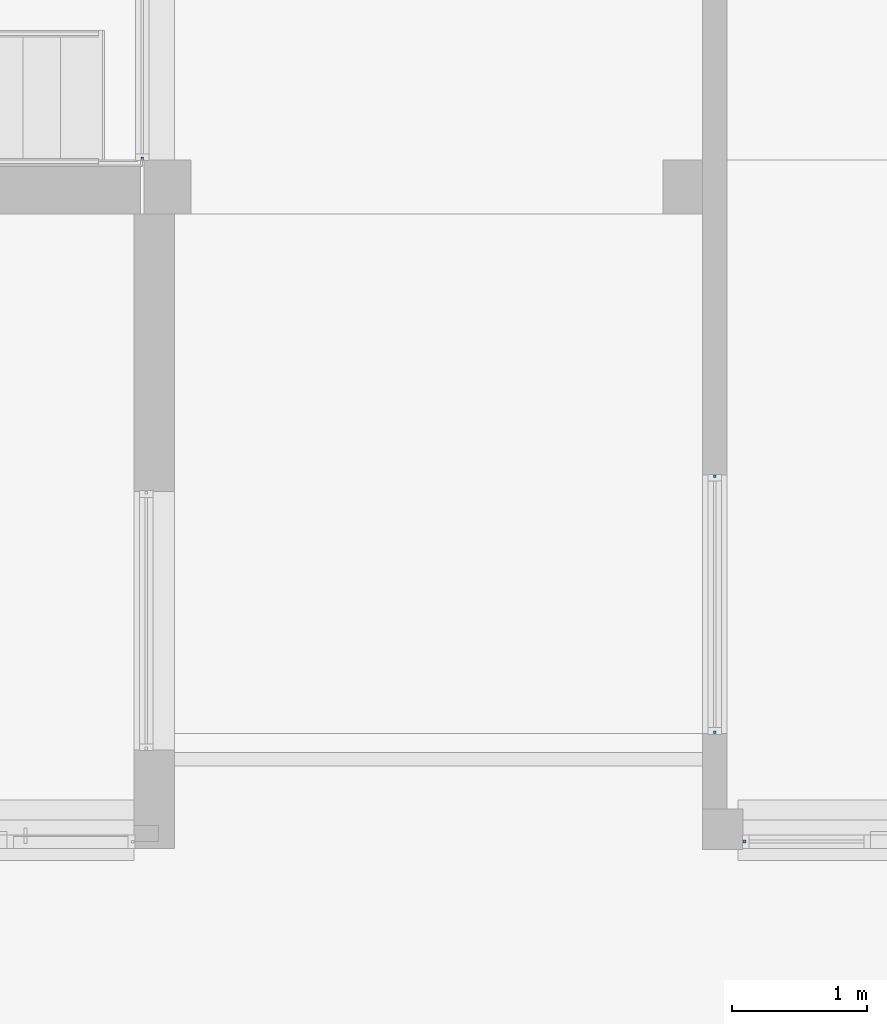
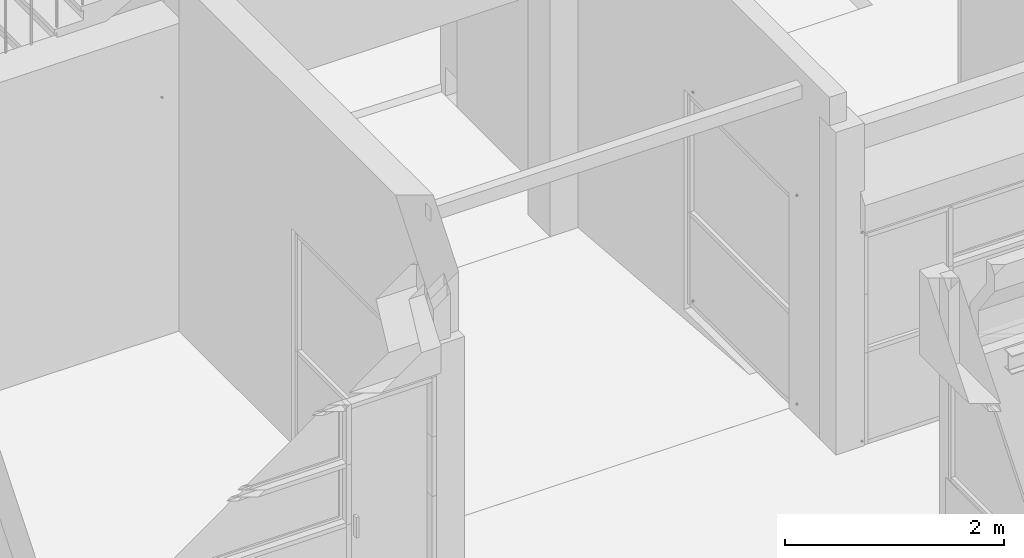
# One storey, part 62 of 117: 7 plates, 3 elements without a shape of their own.
"""IFC4 building model written with IfcOpenShell, lengths in metres."""

from ifc_helpers import new_model, entity, si_unit, converted_unit, derived_unit, direction, frame, origin, place, context, subcontext, project, spatial, indexed_curve, outline, extrude, source, transform, mapped, material, type_object, type_shapes, element, aggregate, save


model = new_model("IFC4")

# Units and contexts
model_context = context("Model", 3, precision=1e-05, world=origin(), true_north=direction((6.123031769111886e-17, 1.0)))
body_context = subcontext(model_context, "Body", "Model", "MODEL_VIEW")
ifc_project = project(units=[si_unit("LENGTHUNIT", "METRE"), si_unit("AREAUNIT", "SQUARE_METRE"), si_unit("VOLUMEUNIT", "CUBIC_METRE"), converted_unit("PLANEANGLEUNIT", "DEGREE", entity("IfcRatioMeasure", 0.017453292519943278), si_unit("PLANEANGLEUNIT", "RADIAN"), dimensions=[0, 0, 0, 0, 0, 0, 0]), si_unit("MASSUNIT", "GRAM", prefix="KILO"), derived_unit("MASSDENSITYUNIT", [(si_unit("MASSUNIT", "GRAM", prefix="KILO"), 1), (si_unit("LENGTHUNIT", "METRE"), -3)]), derived_unit("MOMENTOFINERTIAUNIT", [(si_unit("LENGTHUNIT", "METRE"), 4)]), si_unit("TIMEUNIT", "SECOND"), si_unit("FREQUENCYUNIT", "HERTZ"), si_unit("THERMODYNAMICTEMPERATUREUNIT", "DEGREE_CELSIUS"), derived_unit("THERMALTRANSMITTANCEUNIT", [(si_unit("MASSUNIT", "GRAM", prefix="KILO"), 1), (si_unit("THERMODYNAMICTEMPERATUREUNIT", "KELVIN"), -1), (si_unit("TIMEUNIT", "SECOND"), -3)]), derived_unit("VOLUMETRICFLOWRATEUNIT", [(si_unit("LENGTHUNIT", "METRE"), 3), (si_unit("TIMEUNIT", "SECOND"), -1)]), derived_unit("MASSFLOWRATEUNIT", [(si_unit("MASSUNIT", "GRAM", prefix="KILO"), 1), (si_unit("TIMEUNIT", "SECOND"), -1)]), derived_unit("ROTATIONALFREQUENCYUNIT", [(si_unit("TIMEUNIT", "SECOND"), -1)]), si_unit("ELECTRICCURRENTUNIT", "AMPERE"), si_unit("ELECTRICVOLTAGEUNIT", "VOLT"), si_unit("POWERUNIT", "WATT"), si_unit("FORCEUNIT", "NEWTON", prefix="KILO"), si_unit("ILLUMINANCEUNIT", "LUX"), si_unit("LUMINOUSFLUXUNIT", "LUMEN"), si_unit("LUMINOUSINTENSITYUNIT", "CANDELA"), derived_unit("USERDEFINED", [(si_unit("MASSUNIT", "GRAM", prefix="KILO"), -1), (si_unit("LENGTHUNIT", "METRE"), -2), (si_unit("TIMEUNIT", "SECOND"), 3), (si_unit("LUMINOUSFLUXUNIT", "LUMEN"), 1)]), derived_unit("SOUNDPOWERUNIT", [(si_unit("MASSUNIT", "GRAM", prefix="KILO"), 1), (si_unit("LENGTHUNIT", "METRE"), 2), (si_unit("TIMEUNIT", "SECOND"), -3)]), derived_unit("SOUNDPRESSUREUNIT", [(si_unit("MASSUNIT", "GRAM", prefix="KILO"), 1), (si_unit("LENGTHUNIT", "METRE"), -1), (si_unit("TIMEUNIT", "SECOND"), -2)]), derived_unit("LINEARVELOCITYUNIT", [(si_unit("LENGTHUNIT", "METRE"), 1), (si_unit("TIMEUNIT", "SECOND"), -1)]), si_unit("PRESSUREUNIT", "PASCAL"), derived_unit("USERDEFINED", [(si_unit("LENGTHUNIT", "METRE"), -2), (si_unit("MASSUNIT", "GRAM", prefix="KILO"), 1), (si_unit("TIMEUNIT", "SECOND"), -2)]), derived_unit("LINEARFORCEUNIT", [(si_unit("MASSUNIT", "GRAM", prefix="KILO"), 1), (si_unit("LENGTHUNIT", "METRE"), 1), (si_unit("TIMEUNIT", "SECOND"), -2), (si_unit("LENGTHUNIT", "METRE"), -1)]), derived_unit("PLANARFORCEUNIT", [(si_unit("MASSUNIT", "GRAM", prefix="KILO"), 1), (si_unit("LENGTHUNIT", "METRE"), 1), (si_unit("TIMEUNIT", "SECOND"), -2), (si_unit("LENGTHUNIT", "METRE"), -2)])], contexts=[model_context])

# Site, building, storey
site_placement = place(None, origin())
site = spatial("IfcSite", under=ifc_project, at=site_placement, Name="Superficie", CompositionType="ELEMENT")
building_placement = place(site_placement, origin())
building = spatial("IfcBuilding", under=site, at=building_placement, CompositionType="ELEMENT")
storey_placement = place(building_placement, origin())
storey = spatial("IfcBuildingStorey", under=building, at=storey_placement, Name="Nivel 0", CompositionType="ELEMENT", Elevation=0.0)

# Curtain wall, plates
curtain_wall_type = type_object("IfcCurtainWallType", Name="Muro cortina:Muro cortina - simple", PredefinedType="NOTDEFINED")
curtain_wall_1_placement = place(storey_placement, origin())
curtain_wall_1 = element("IfcCurtainWall", 1, at=curtain_wall_1_placement, inside=storey, type_object=curtain_wall_type, Name="Muro cortina:Muro cortina - simple", ObjectType="Muro cortina:Muro cortina - simple", PredefinedType="NOTDEFINED")
ifc_material = material(Name="Cristal", Category="Vidrio")
plate_type_1 = type_object("IfcPlateType", Name="Panel de sistema:Acristalado", PredefinedType="CURTAIN_PANEL", material=ifc_material)
shared_shape_1 = source(origin(), body_context, "Body", "SweptSolid", [
    extrude(outline(indexed_curve([(-0.01, -0.009999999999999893), (0.01, -0.009999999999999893), (0.01, 0.009999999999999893), (-0.01, 0.009999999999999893), (-0.01, -0.009999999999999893)], self_intersect=False)), frame((0.0, 0.0, 0.0), z_axis=(0.0, 0.0, 1.0), x_axis=(0.0, 1.0, 0.0)), (0.0, 0.0, 1.0), 0.02000000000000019),
])
type_shapes(plate_type_1, [shared_shape_1])
plate_1_placement = place(curtain_wall_1_placement, frame((0.8515520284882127, 8.423973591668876, 0.0), z_axis=(0.0, 0.0, 1.0), x_axis=(0.0, -1.0, 0.0)))
plate_1 = element("IfcPlate", 2, at=plate_1_placement, type_object=plate_type_1, material=ifc_material, Name="Panel de sistema:Acristalado", ObjectType="Panel de sistema:Acristalado", PredefinedType="CURTAIN_PANEL", context=body_context, shape_type="MappedRepresentation", body=[
    mapped(shared_shape_1, transform((0.0, 0.0, 0.0), scale=1.0)),
])
plate_2_placement = place(curtain_wall_1_placement, frame((0.8515520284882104, 6.526739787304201, 0.0), z_axis=(0.0, 0.0, 1.0), x_axis=(0.0, -1.0, 0.0)))
plate_2 = element("IfcPlate", 3, at=plate_2_placement, type_object=plate_type_1, material=ifc_material, Name="Panel de sistema:Acristalado", ObjectType="Panel de sistema:Acristalado", PredefinedType="CURTAIN_PANEL", context=body_context, shape_type="MappedRepresentation", body=[
    mapped(shared_shape_1, transform((0.0, 0.0, 0.0), scale=1.0)),
])
plate_3_placement = place(curtain_wall_1_placement, frame((0.8515520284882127, 8.423973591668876, 2.33), z_axis=(0.0, 0.0, 1.0), x_axis=(0.0, -1.0, 0.0)))
plate_3 = element("IfcPlate", 4, at=plate_3_placement, type_object=plate_type_1, material=ifc_material, Name="Panel de sistema:Acristalado", ObjectType="Panel de sistema:Acristalado", PredefinedType="CURTAIN_PANEL", context=body_context, shape_type="MappedRepresentation", body=[
    mapped(shared_shape_1, transform((0.0, 0.0, 0.0), scale=1.0)),
])
plate_4_placement = place(curtain_wall_1_placement, frame((0.8515520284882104, 6.526739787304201, 2.33), z_axis=(0.0, 0.0, 1.0), x_axis=(0.0, -1.0, 0.0)))
plate_4 = element("IfcPlate", 5, at=plate_4_placement, type_object=plate_type_1, material=ifc_material, Name="Panel de sistema:Acristalado", ObjectType="Panel de sistema:Acristalado", PredefinedType="CURTAIN_PANEL", context=body_context, shape_type="MappedRepresentation", body=[
    mapped(shared_shape_1, transform((0.0, 0.0, 0.0), scale=1.0)),
])
aggregate(curtain_wall_1, [plate_1, plate_2, plate_3, plate_4])

curtain_wall_2_placement = place(storey_placement, origin())
curtain_wall_2 = element("IfcCurtainWall", 6, at=curtain_wall_2_placement, inside=storey, type_object=curtain_wall_type, Name="Muro cortina:Muro cortina - simple", ObjectType="Muro cortina:Muro cortina - simple", PredefinedType="NOTDEFINED")
plate_5_placement = place(curtain_wall_2_placement, frame((1.0715520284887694, 5.7167397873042, 0.0)))
plate_5 = element("IfcPlate", 7, at=plate_5_placement, type_object=plate_type_1, material=ifc_material, Name="Panel de sistema:Acristalado", ObjectType="Panel de sistema:Acristalado", PredefinedType="CURTAIN_PANEL", context=body_context, shape_type="MappedRepresentation", body=[
    mapped(shared_shape_1, transform((0.0, 0.0, 0.0), scale=1.0)),
])
plate_6_placement = place(curtain_wall_2_placement, frame((1.071552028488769, 5.7167397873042, 2.33)))
plate_6 = element("IfcPlate", 8, at=plate_6_placement, type_object=plate_type_1, material=ifc_material, Name="Panel de sistema:Acristalado", ObjectType="Panel de sistema:Acristalado", PredefinedType="CURTAIN_PANEL", context=body_context, shape_type="MappedRepresentation", body=[
    mapped(shared_shape_1, transform((0.0, 0.0, 0.0), scale=1.0)),
])
aggregate(curtain_wall_2, [plate_5, plate_6])

# Curtain wall, plate
curtain_wall_3_placement = place(storey_placement, origin())
curtain_wall_3 = element("IfcCurtainWall", 9, at=curtain_wall_3_placement, inside=storey, type_object=curtain_wall_type, Name="Muro cortina:Muro cortina - simple", ObjectType="Muro cortina:Muro cortina - simple", PredefinedType="NOTDEFINED")
plate_type_2 = type_object("IfcPlateType", Name="Panel de sistema:Acristalado", PredefinedType="CURTAIN_PANEL", material=ifc_material)
shared_shape_2 = source(origin(), body_context, "Body", "SweptSolid", [
    extrude(outline(indexed_curve([(-0.01, -0.009999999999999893), (0.01, -0.009999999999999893), (0.01, 0.009999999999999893), (-0.01, 0.009999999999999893), (-0.01, -0.009999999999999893)], self_intersect=False)), frame((0.0, 0.0, 0.0), z_axis=(0.0, 0.0, 1.0), x_axis=(0.0, 1.0, 0.0)), (0.0, 0.0, 1.0), 0.020000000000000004),
])
type_shapes(plate_type_2, [shared_shape_2])
plate_7_placement = place(curtain_wall_3_placement, frame((-3.3932009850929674, 10.780829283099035, 2.3299999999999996), z_axis=(0.0, 0.0, 1.0), x_axis=(0.0, 1.0, 0.0)))
plate_7 = element("IfcPlate", 10, at=plate_7_placement, type_object=plate_type_2, material=ifc_material, Name="Panel de sistema:Acristalado", ObjectType="Panel de sistema:Acristalado", PredefinedType="CURTAIN_PANEL", context=body_context, shape_type="MappedRepresentation", body=[
    mapped(shared_shape_2, transform((0.0, 0.0, 0.0), scale=1.0)),
])
aggregate(curtain_wall_3, [plate_7])

save(model, "model.ifc")
